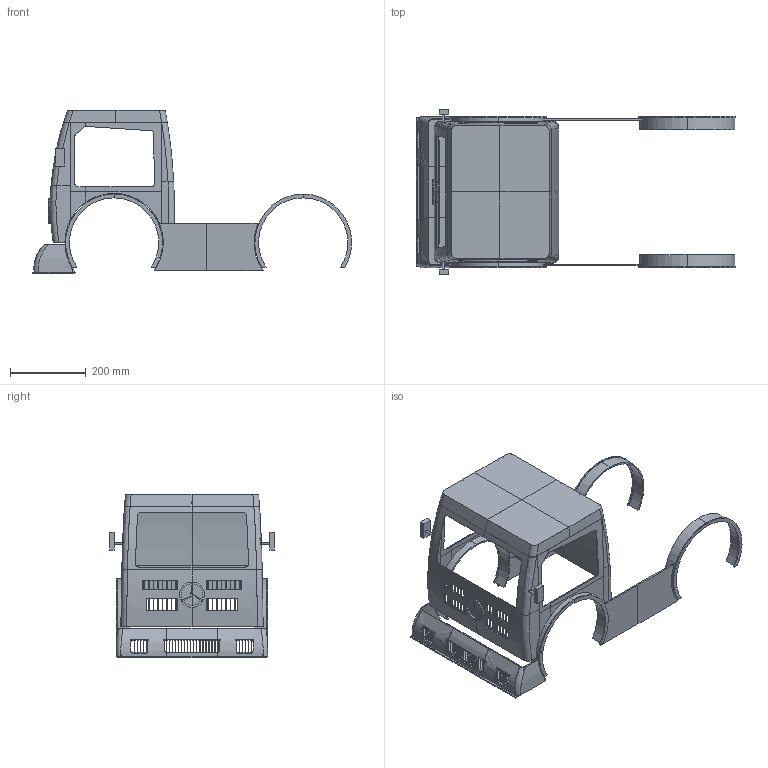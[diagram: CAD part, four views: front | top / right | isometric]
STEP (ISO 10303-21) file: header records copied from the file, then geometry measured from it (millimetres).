
FILE_DESCRIPTION(('Open CASCADE Model'),'2;1');
FILE_NAME('Open CASCADE Shape Model','2026-11-03T04:29:38',('Author'),( 'Open CASCADE'),'Open CASCADE STEP processor 7.8','Open CASCADE 7.8' ,'Unknown');
FILE_SCHEMA(('AUTOMOTIVE_DESIGN { 1 0 10303 214 1 1 1 1 }'));
Length unit declared in the file: millimetre
Products named in the file (48): FORMULA_TRUCK_CARROCERIA_400; 01_cabine_frente_1_1_1; 01_cabine_frente_1_1_2; 01_cabine_frente_2_1_1; 01_cabine_frente_2_1_2; 01_cabine_lateral_Ynegativo_1_1; 01_cabine_lateral_Ynegativo_1_2; 01_cabine_lateral_Ynegativo_2_1; 01_cabine_lateral_Ynegativo_2_2; 01_cabine_lateral_Ypositivo_1_1; 01_cabine_lateral_Ypositivo_1_2; 01_cabine_lateral_Ypositivo_2_1; 01_cabine_lateral_Ypositivo_2_2; 01_cabine_teto_1_1_1; 01_cabine_teto_1_1_2; 01_cabine_teto_1_2_1; 01_cabine_teto_1_2_2; 01_cabine_traseiro_1_1_1; 01_cabine_traseiro_1_1_2; 01_cabine_traseiro_2_1_1; 01_cabine_traseiro_2_1_2; 06_parachoque_secao_1; 06_parachoque_secao_2_1; 06_parachoque_secao_2_2; 06_parachoque_secao_3; 07_lamina_inferior_secao_1; 07_lamina_inferior_secao_2; 07_lamina_inferior_secao_3; 08_paralama_dianteiro_-1_parte_1; 08_paralama_dianteiro_-1_parte_2; 08_paralama_dianteiro_1_parte_1; 08_paralama_dianteiro_1_parte_2; 09_paralama_traseiro_-1_parte_1; 09_paralama_traseiro_-1_parte_2; 09_paralama_traseiro_1_parte_1; 09_paralama_traseiro_1_parte_2; 10_carenagem_-1_secao_1; 10_carenagem_-1_secao_2; 10_carenagem_1_secao_1; 10_carenagem_1_secao_2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
Assembly tree (47 placements, depth 2):
  FORMULA_TRUCK_CARROCERIA_400
    01_cabine_frente_1_1_1
    01_cabine_frente_1_1_2
    01_cabine_frente_2_1_1
    01_cabine_frente_2_1_2
    01_cabine_lateral_Ynegativo_1_1
    01_cabine_lateral_Ynegativo_1_2
    01_cabine_lateral_Ynegativo_2_1
    01_cabine_lateral_Ynegativo_2_2
    01_cabine_lateral_Ypositivo_1_1
    01_cabine_lateral_Ypositivo_1_2
    01_cabine_lateral_Ypositivo_2_1
    01_cabine_lateral_Ypositivo_2_2
    01_cabine_teto_1_1_1
    01_cabine_teto_1_1_2
    01_cabine_teto_1_2_1
    01_cabine_teto_1_2_2
    01_cabine_traseiro_1_1_1
    01_cabine_traseiro_1_1_2
    01_cabine_traseiro_2_1_1
    01_cabine_traseiro_2_1_2
    06_parachoque_secao_1
    06_parachoque_secao_2_1
    06_parachoque_secao_2_2
    06_parachoque_secao_3
    07_lamina_inferior_secao_1
    07_lamina_inferior_secao_2
    07_lamina_inferior_secao_3
    08_paralama_dianteiro_-1_parte_1
    08_paralama_dianteiro_-1_parte_2
    08_paralama_dianteiro_1_parte_1
    08_paralama_dianteiro_1_parte_2
    09_paralama_traseiro_-1_parte_1
    09_paralama_traseiro_-1_parte_2
    09_paralama_traseiro_1_parte_1
    09_paralama_traseiro_1_parte_2
    10_carenagem_-1_secao_1
    10_carenagem_-1_secao_2
    10_carenagem_1_secao_1
    10_carenagem_1_secao_2
    11_emblema_frontal
    11_grade_ventilada_1
    11_grade_ventilada_2
    11_tela_duto_-139
    11_tela_duto_0
    11_tela_duto_139
    12_espelho_-1
    12_espelho_1
Bounding box: 843.86 x 436 x 433 mm (x, y, z)
Volume: 1929508.8 mm3; surface area: 1304619.9 mm2
Topology: 47 solids, 47 shells, 1060 faces, 2577 edges, 1465 vertices
Faces by surface type: plane 859, bspline 106, cylinder 95
Full cylindrical faces by diameter (mm): 3.6 x3, 4 x2, 6 x2, 6.5 x2, 66 x1
Entity records: 85810 total; most frequent: CARTESIAN_POINT 35408, DIRECTION 8139, LINE 5832, VECTOR 5832, ORIENTED_EDGE 5154, PCURVE 5154, DEFINITIONAL_REPRESENTATION 5154, EDGE_CURVE 2577
